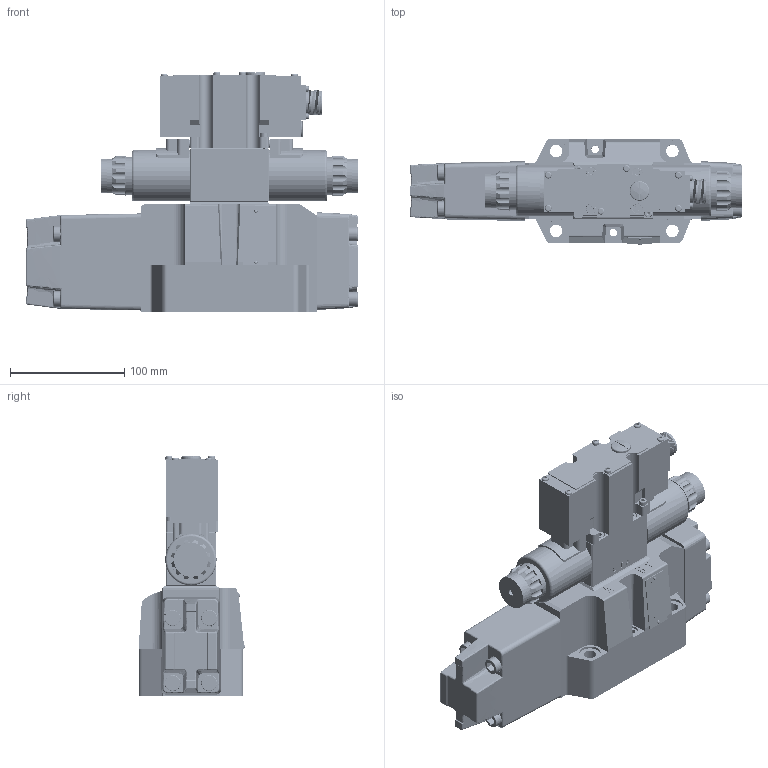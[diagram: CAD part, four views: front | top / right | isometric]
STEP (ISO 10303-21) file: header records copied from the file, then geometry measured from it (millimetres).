
FILE_DESCRIPTION(/* description */ (''),/* implementation_level */ '2;1');
FILE_NAME(/* name */ '4WRZE16-7XJ.stp',/* time_stamp */ '2024-12-11T08:33:59+08:00',/* author */ (''),/* organization */ (''),/* preprocessor_version */ 'ST-DEVELOPER v16.7',/* originating_system */ 'SIEMENS PLM Software NX 12.0',/* authorisation */ '');
FILE_SCHEMA (('AUTOMOTIVE_DESIGN { 1 0 10303 214 3 1 1 1 }'));
Products named in the file (1): 4WRZE16-7XJ
Bounding box: 290.6 x 93.3 x 210.72 mm (x, y, z)
Volume: 1019508.8 mm3; surface area: 400561.3 mm2
Topology: 60 solids, 61 shells, 3215 faces, 8253 edges, 5233 vertices
Faces by surface type: cylinder 1412, plane 1076, torus 239, cone 202, bspline 199, extrusion 52, sphere 34, revolution 1
Full cylindrical faces by diameter (mm): 1 x2, 1.8 x2, 1.9 x2, 2.5 x6, 3 x6, 3.6 x4, 4 x8, 4.2 x48, 4.4 x8, 4.8 x2, 5 x101, 5.5 x2, 6.6 x3, 6.7 x88, 6.78 x2, 6.8 x3, 7 x4, 7.4 x3, 8 x78, 8.5 x4, 9.6 x1, 10 x1, 11 x6, 11.026 x3, 11.4 x4, 12 x8, 12.2 x2, 12.73 x4, 12.8 x1, 13.6 x1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
Entity records: 292255 total; most frequent: CARTESIAN_POINT 224608, ORIENTED_EDGE 13426, DIRECTION 12093, EDGE_CURVE 6713, AXIS2_PLACEMENT_3D 4685, VERTEX_POINT 4496, EDGE_LOOP 3572, ADVANCED_FACE 2914
